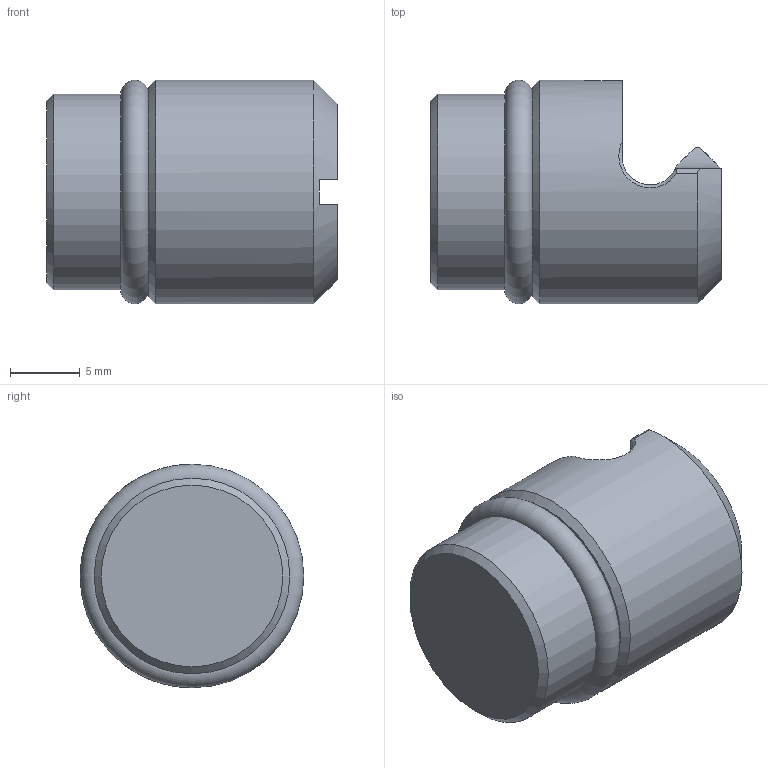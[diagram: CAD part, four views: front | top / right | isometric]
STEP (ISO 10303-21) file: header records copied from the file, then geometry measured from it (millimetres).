
FILE_DESCRIPTION (( 'STEP AP214' ), '1' );
FILE_NAME ('6921884036000.STEP', '2020-11-27T07:57:29', ( '' ), ( '' ), 'SwSTEP 2.0', 'SolidWorks 2018', '' );
FILE_SCHEMA (( 'AUTOMOTIVE_DESIGN' ));
Length unit declared in the file: millimetre
Products named in the file (1): 6921884036000
Bounding box: 20.8 x 16 x 16 mm (x, y, z)
Volume: 3282.1 mm3; surface area: 1652.7 mm2
Topology: 2 solids, 2 shells, 33 faces, 85 edges, 55 vertices
Faces by surface type: plane 16, cylinder 9, cone 4, torus 2, bspline 2
Full cylindrical faces by diameter (mm): 12 x1, 14 x1, 16 x1
Entity records: 1164 total; most frequent: CARTESIAN_POINT 405, ORIENTED_EDGE 148, DIRECTION 123, EDGE_CURVE 74, VERTEX_POINT 52, AXIS2_PLACEMENT_3D 46, EDGE_LOOP 40, FACE_OUTER_BOUND 36
